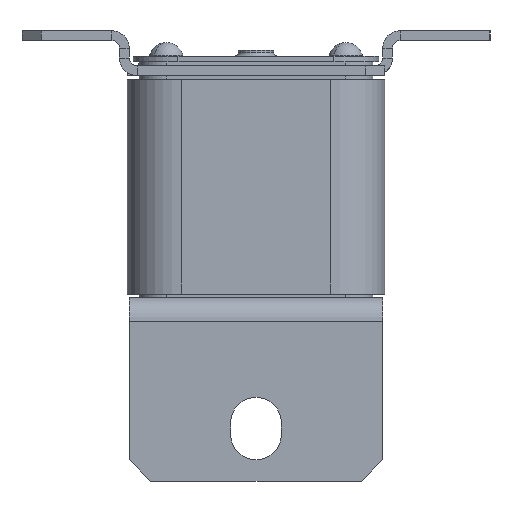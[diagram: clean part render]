
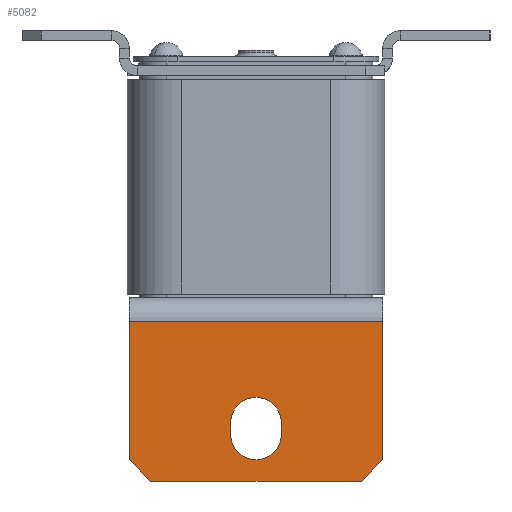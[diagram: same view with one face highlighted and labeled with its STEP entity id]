
A CAD part, front view. The second image highlights one B-rep face of the part: STEP entity #5082.
In plain terms, the highlighted planar face has unit normal (0, -1, 0).
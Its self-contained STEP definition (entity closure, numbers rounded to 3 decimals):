
#190 = CARTESIAN_POINT ( 'NONE',  ( -23.368, -16.503, -91. ) ) ;
#272 = ORIENTED_EDGE ( 'NONE', *, *, #11313, .F. ) ;
#574 = AXIS2_PLACEMENT_3D ( 'NONE', #7970, #5377, #6777 ) ;
#677 = CARTESIAN_POINT ( 'NONE',  ( 2.632, -16.503, -62. ) ) ;
#795 = VERTEX_POINT ( 'NONE', #3542 ) ;
#1114 = VECTOR ( 'NONE', #5322, 1000. ) ;
#1463 = CARTESIAN_POINT ( 'NONE',  ( -23.368, -16.503, -91. ) ) ;
#1480 = DIRECTION ( 'NONE',  ( 1., 0., 0. ) ) ;
#1892 = AXIS2_PLACEMENT_3D ( 'NONE', #15242, #7758, #15294 ) ;
#1932 = CIRCLE ( 'NONE', #574, 6.5 ) ;
#2015 = DIRECTION ( 'NONE',  ( 0., -1., 0. ) ) ;
#2116 = ORIENTED_EDGE ( 'NONE', *, *, #15084, .F. ) ;
#2172 = EDGE_CURVE ( 'NONE', #795, #6876, #3155, .T. ) ;
#2190 = EDGE_CURVE ( 'NONE', #4077, #7445, #8501, .T. ) ;
#2394 = FACE_BOUND ( 'NONE', #4479, .T. ) ;
#2751 = VECTOR ( 'NONE', #15670, 1000. ) ;
#2772 = VERTEX_POINT ( 'NONE', #677 ) ;
#3155 = LINE ( 'NONE', #4223, #6101 ) ;
#3421 = DIRECTION ( 'NONE',  ( 0., 0., 1. ) ) ;
#3542 = CARTESIAN_POINT ( 'NONE',  ( -56.868, -16.503, -103. ) ) ;
#3944 = LINE ( 'NONE', #4178, #1114 ) ;
#4077 = VERTEX_POINT ( 'NONE', #11089 ) ;
#4178 = CARTESIAN_POINT ( 'NONE',  ( -36.368, -16.503, -91. ) ) ;
#4223 = CARTESIAN_POINT ( 'NONE',  ( -2.868, -16.503, -103. ) ) ;
#4479 = EDGE_LOOP ( 'NONE', ( #9693, #11655, #11759, #272, #2116 ) ) ;
#4541 = DIRECTION ( 'NONE',  ( 0., 0., 1. ) ) ;
#4582 = VERTEX_POINT ( 'NONE', #15807 ) ;
#4840 = LINE ( 'NONE', #1463, #6461 ) ;
#4855 = CARTESIAN_POINT ( 'NONE',  ( -29.868, -16.503, -91. ) ) ;
#4926 = VECTOR ( 'NONE', #15510, 1000. ) ;
#4943 = PLANE ( 'NONE',  #1892 ) ;
#5082 = ADVANCED_FACE ( 'NONE', ( #2394, #7031 ), #4943, .F. ) ;
#5274 = EDGE_CURVE ( 'NONE', #6876, #4582, #15375, .T. ) ;
#5304 = VERTEX_POINT ( 'NONE', #190 ) ;
#5322 = DIRECTION ( 'NONE',  ( 0., 0., -1. ) ) ;
#5359 = VECTOR ( 'NONE', #8042, 1000. ) ;
#5377 = DIRECTION ( 'NONE',  ( 0., -1., 0. ) ) ;
#5463 = DIRECTION ( 'NONE',  ( 1., 0., 0. ) ) ;
#5677 = AXIS2_PLACEMENT_3D ( 'NONE', #11036, #13614, #3421 ) ;
#5739 = CARTESIAN_POINT ( 'NONE',  ( -2.868, -16.503, -103. ) ) ;
#6048 = CARTESIAN_POINT ( 'NONE',  ( -36.368, -16.503, -91. ) ) ;
#6101 = VECTOR ( 'NONE', #5463, 1000. ) ;
#6303 = VERTEX_POINT ( 'NONE', #16050 ) ;
#6359 = ORIENTED_EDGE ( 'NONE', *, *, #2172, .T. ) ;
#6377 = CARTESIAN_POINT ( 'NONE',  ( -29.868, -16.503, -97.5 ) ) ;
#6461 = VECTOR ( 'NONE', #15563, 1000. ) ;
#6578 = CARTESIAN_POINT ( 'NONE',  ( -62.368, -16.503, -62. ) ) ;
#6702 = LINE ( 'NONE', #6578, #12529 ) ;
#6777 = DIRECTION ( 'NONE',  ( 0., 0., 1. ) ) ;
#6876 = VERTEX_POINT ( 'NONE', #5739 ) ;
#6900 = VERTEX_POINT ( 'NONE', #6048 ) ;
#7031 = FACE_OUTER_BOUND ( 'NONE', #15853, .T. ) ;
#7445 = VERTEX_POINT ( 'NONE', #11254 ) ;
#7699 = CARTESIAN_POINT ( 'NONE',  ( -23.368, -16.503, -88. ) ) ;
#7758 = DIRECTION ( 'NONE',  ( 0., 1., 0. ) ) ;
#7970 = CARTESIAN_POINT ( 'NONE',  ( -29.868, -16.503, -88. ) ) ;
#8042 = DIRECTION ( 'NONE',  ( 0.707, 0., 0.707 ) ) ;
#8337 = LINE ( 'NONE', #12855, #4926 ) ;
#8501 = LINE ( 'NONE', #13254, #2751 ) ;
#8724 = CIRCLE ( 'NONE', #5677, 6.5 ) ;
#8779 = DIRECTION ( 'NONE',  ( 0., 0., 1. ) ) ;
#8887 = ORIENTED_EDGE ( 'NONE', *, *, #10784, .F. ) ;
#9501 = ORIENTED_EDGE ( 'NONE', *, *, #12869, .T. ) ;
#9554 = AXIS2_PLACEMENT_3D ( 'NONE', #4855, #2015, #4541 ) ;
#9693 = ORIENTED_EDGE ( 'NONE', *, *, #11540, .F. ) ;
#10210 = VERTEX_POINT ( 'NONE', #6377 ) ;
#10420 = CARTESIAN_POINT ( 'NONE',  ( -2.868, -16.503, -103. ) ) ;
#10784 = EDGE_CURVE ( 'NONE', #4077, #2772, #6702, .T. ) ;
#11036 = CARTESIAN_POINT ( 'NONE',  ( -29.868, -16.503, -91. ) ) ;
#11089 = CARTESIAN_POINT ( 'NONE',  ( -62.368, -16.503, -62. ) ) ;
#11254 = CARTESIAN_POINT ( 'NONE',  ( -62.368, -16.503, -97.5 ) ) ;
#11313 = EDGE_CURVE ( 'NONE', #5304, #15381, #4840, .T. ) ;
#11540 = EDGE_CURVE ( 'NONE', #6900, #10210, #14661, .T. ) ;
#11655 = ORIENTED_EDGE ( 'NONE', *, *, #12934, .F. ) ;
#11759 = ORIENTED_EDGE ( 'NONE', *, *, #12984, .F. ) ;
#12529 = VECTOR ( 'NONE', #1480, 1000. ) ;
#12785 = EDGE_CURVE ( 'NONE', #4582, #2772, #12986, .T. ) ;
#12855 = CARTESIAN_POINT ( 'NONE',  ( -56.868, -16.503, -103. ) ) ;
#12869 = EDGE_CURVE ( 'NONE', #7445, #795, #8337, .T. ) ;
#12934 = EDGE_CURVE ( 'NONE', #6303, #6900, #3944, .T. ) ;
#12984 = EDGE_CURVE ( 'NONE', #15381, #6303, #1932, .T. ) ;
#12986 = LINE ( 'NONE', #16442, #16126 ) ;
#13254 = CARTESIAN_POINT ( 'NONE',  ( -62.368, -16.503, -97.5 ) ) ;
#13614 = DIRECTION ( 'NONE',  ( 0., -1., 0. ) ) ;
#14059 = ORIENTED_EDGE ( 'NONE', *, *, #2190, .T. ) ;
#14486 = ORIENTED_EDGE ( 'NONE', *, *, #5274, .T. ) ;
#14661 = CIRCLE ( 'NONE', #9554, 6.5 ) ;
#15084 = EDGE_CURVE ( 'NONE', #10210, #5304, #8724, .T. ) ;
#15242 = CARTESIAN_POINT ( 'NONE',  ( -62.368, -16.503, -59. ) ) ;
#15278 = ORIENTED_EDGE ( 'NONE', *, *, #12785, .T. ) ;
#15294 = DIRECTION ( 'NONE',  ( 0., 0., -1. ) ) ;
#15375 = LINE ( 'NONE', #10420, #5359 ) ;
#15381 = VERTEX_POINT ( 'NONE', #7699 ) ;
#15510 = DIRECTION ( 'NONE',  ( 0.707, 0., -0.707 ) ) ;
#15563 = DIRECTION ( 'NONE',  ( 0., 0., 1. ) ) ;
#15670 = DIRECTION ( 'NONE',  ( 0., 0., -1. ) ) ;
#15807 = CARTESIAN_POINT ( 'NONE',  ( 2.632, -16.503, -97.5 ) ) ;
#15853 = EDGE_LOOP ( 'NONE', ( #8887, #14059, #9501, #6359, #14486, #15278 ) ) ;
#16050 = CARTESIAN_POINT ( 'NONE',  ( -36.368, -16.503, -88. ) ) ;
#16126 = VECTOR ( 'NONE', #8779, 1000. ) ;
#16442 = CARTESIAN_POINT ( 'NONE',  ( 2.632, -16.503, -59. ) ) ;
